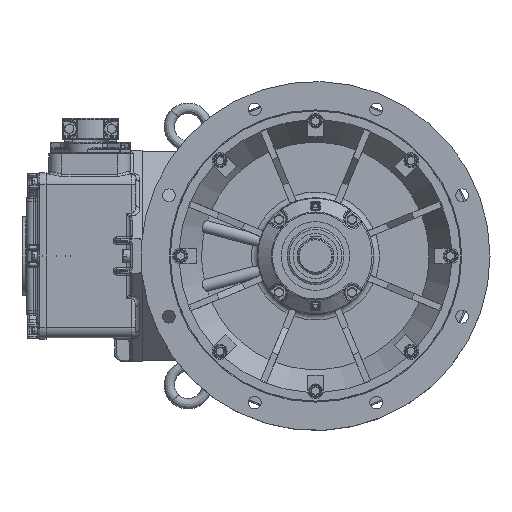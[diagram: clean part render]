
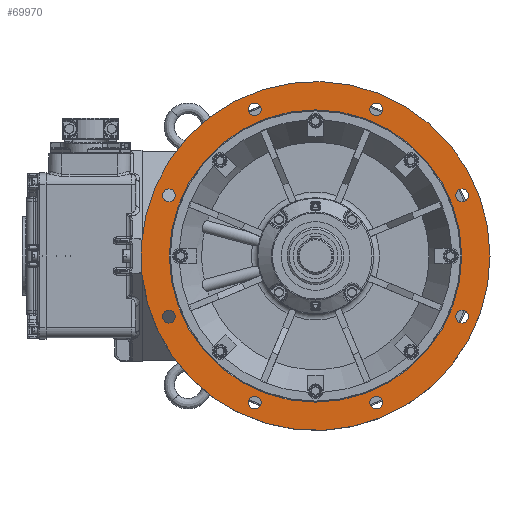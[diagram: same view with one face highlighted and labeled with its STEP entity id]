
A CAD part, left-side view. The second image highlights one B-rep face of the part: STEP entity #69970.
In plain terms, the highlighted planar face has unit normal (-1, 0, 0).
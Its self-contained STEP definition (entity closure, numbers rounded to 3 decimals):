
#16472=ORIENTED_EDGE('',*,*,#27473,.F.);
#16473=ORIENTED_EDGE('',*,*,#27475,.F.);
#16474=ORIENTED_EDGE('',*,*,#27477,.F.);
#16475=ORIENTED_EDGE('',*,*,#27479,.F.);
#16476=ORIENTED_EDGE('',*,*,#27481,.F.);
#16477=ORIENTED_EDGE('',*,*,#27483,.F.);
#16478=ORIENTED_EDGE('',*,*,#27485,.F.);
#16479=ORIENTED_EDGE('',*,*,#27487,.F.);
#16480=ORIENTED_EDGE('',*,*,#27770,.F.);
#16481=ORIENTED_EDGE('',*,*,#27771,.T.);
#27473=EDGE_CURVE('',#33704,#33704,#37125,.T.);
#27475=EDGE_CURVE('',#33706,#33706,#37127,.T.);
#27477=EDGE_CURVE('',#33708,#33708,#37129,.T.);
#27479=EDGE_CURVE('',#33710,#33710,#37131,.T.);
#27481=EDGE_CURVE('',#33712,#33712,#37133,.T.);
#27483=EDGE_CURVE('',#33714,#33714,#37135,.T.);
#27485=EDGE_CURVE('',#33716,#33716,#37137,.T.);
#27487=EDGE_CURVE('',#33718,#33718,#37139,.T.);
#27770=EDGE_CURVE('',#33906,#33906,#37230,.T.);
#27771=EDGE_CURVE('',#33907,#33907,#37231,.F.);
#33704=VERTEX_POINT('',#104951);
#33706=VERTEX_POINT('',#104956);
#33708=VERTEX_POINT('',#104961);
#33710=VERTEX_POINT('',#104966);
#33712=VERTEX_POINT('',#104971);
#33714=VERTEX_POINT('',#104976);
#33716=VERTEX_POINT('',#104981);
#33718=VERTEX_POINT('',#104986);
#33906=VERTEX_POINT('',#105799);
#33907=VERTEX_POINT('',#105801);
#37125=CIRCLE('',#73939,12.);
#37127=CIRCLE('',#73942,12.);
#37129=CIRCLE('',#73945,12.);
#37131=CIRCLE('',#73948,12.);
#37133=CIRCLE('',#73951,12.);
#37135=CIRCLE('',#73954,12.);
#37137=CIRCLE('',#73957,12.);
#37139=CIRCLE('',#73960,12.);
#37230=CIRCLE('',#74159,276.402);
#37231=CIRCLE('',#74160,330.);
#40298=EDGE_LOOP('',(#16472));
#40299=EDGE_LOOP('',(#16473));
#40300=EDGE_LOOP('',(#16474));
#40301=EDGE_LOOP('',(#16475));
#40302=EDGE_LOOP('',(#16476));
#40303=EDGE_LOOP('',(#16477));
#40304=EDGE_LOOP('',(#16478));
#40305=EDGE_LOOP('',(#16479));
#40306=EDGE_LOOP('',(#16480));
#40307=EDGE_LOOP('',(#16481));
#43824=FACE_BOUND('',#40298,.T.);
#43825=FACE_BOUND('',#40299,.T.);
#43826=FACE_BOUND('',#40300,.T.);
#43827=FACE_BOUND('',#40301,.T.);
#43828=FACE_BOUND('',#40302,.T.);
#43829=FACE_BOUND('',#40303,.T.);
#43830=FACE_BOUND('',#40304,.T.);
#43831=FACE_BOUND('',#40305,.T.);
#43832=FACE_BOUND('',#40306,.T.);
#43833=FACE_BOUND('',#40307,.T.);
#46670=PLANE('',#74158);
#69970=ADVANCED_FACE('',(#43824,#43825,#43826,#43827,#43828,#43829,#43830,
#43831,#43832,#43833),#46670,.F.);
#73939=AXIS2_PLACEMENT_3D('',#104950,#83492,#83493);
#73942=AXIS2_PLACEMENT_3D('',#104955,#83498,#83499);
#73945=AXIS2_PLACEMENT_3D('',#104960,#83504,#83505);
#73948=AXIS2_PLACEMENT_3D('',#104965,#83510,#83511);
#73951=AXIS2_PLACEMENT_3D('',#104970,#83516,#83517);
#73954=AXIS2_PLACEMENT_3D('',#104975,#83522,#83523);
#73957=AXIS2_PLACEMENT_3D('',#104980,#83528,#83529);
#73960=AXIS2_PLACEMENT_3D('',#104985,#83534,#83535);
#74158=AXIS2_PLACEMENT_3D('',#105797,#84056,#84057);
#74159=AXIS2_PLACEMENT_3D('',#105798,#84058,#84059);
#74160=AXIS2_PLACEMENT_3D('',#105800,#84060,#84061);
#83492=DIRECTION('',(-1.,0.,0.));
#83493=DIRECTION('',(0.,0.,1.));
#83498=DIRECTION('',(-1.,0.,0.));
#83499=DIRECTION('',(0.,0.,1.));
#83504=DIRECTION('',(-1.,0.,0.));
#83505=DIRECTION('',(0.,0.,1.));
#83510=DIRECTION('',(-1.,0.,0.));
#83511=DIRECTION('',(0.,0.,1.));
#83516=DIRECTION('',(-1.,0.,0.));
#83517=DIRECTION('',(0.,0.,1.));
#83522=DIRECTION('',(-1.,0.,0.));
#83523=DIRECTION('',(0.,0.,1.));
#83528=DIRECTION('',(-1.,0.,0.));
#83529=DIRECTION('',(0.,0.,1.));
#83534=DIRECTION('',(-1.,0.,0.));
#83535=DIRECTION('',(0.,0.,1.));
#84056=DIRECTION('',(1.,0.,0.));
#84057=DIRECTION('',(0.,-1.,0.));
#84058=DIRECTION('',(-1.,0.,0.));
#84059=DIRECTION('',(0.,1.,0.));
#84060=DIRECTION('',(1.,0.,0.));
#84061=DIRECTION('',(0.,-1.,0.));
#104950=CARTESIAN_POINT('',(-89.5,114.805,277.164));
#104951=CARTESIAN_POINT('',(-89.5,114.805,289.164));
#104955=CARTESIAN_POINT('',(-89.5,-114.805,277.164));
#104956=CARTESIAN_POINT('',(-89.5,-114.805,289.164));
#104960=CARTESIAN_POINT('',(-89.5,-277.164,114.805));
#104961=CARTESIAN_POINT('',(-89.5,-277.164,126.805));
#104965=CARTESIAN_POINT('',(-89.5,-277.164,-114.805));
#104966=CARTESIAN_POINT('',(-89.5,-277.164,-102.805));
#104970=CARTESIAN_POINT('',(-89.5,-114.805,-277.164));
#104971=CARTESIAN_POINT('',(-89.5,-114.805,-265.164));
#104975=CARTESIAN_POINT('',(-89.5,114.805,-277.164));
#104976=CARTESIAN_POINT('',(-89.5,114.805,-265.164));
#104980=CARTESIAN_POINT('',(-89.5,277.164,-114.805));
#104981=CARTESIAN_POINT('',(-89.5,277.164,-102.805));
#104985=CARTESIAN_POINT('',(-89.5,277.164,114.805));
#104986=CARTESIAN_POINT('',(-89.5,277.164,126.805));
#105797=CARTESIAN_POINT('',(-89.5,276.402,0.));
#105798=CARTESIAN_POINT('',(-89.5,0.,0.));
#105799=CARTESIAN_POINT('',(-89.5,276.402,0.));
#105800=CARTESIAN_POINT('',(-89.5,0.,0.));
#105801=CARTESIAN_POINT('',(-89.5,-330.,0.));
